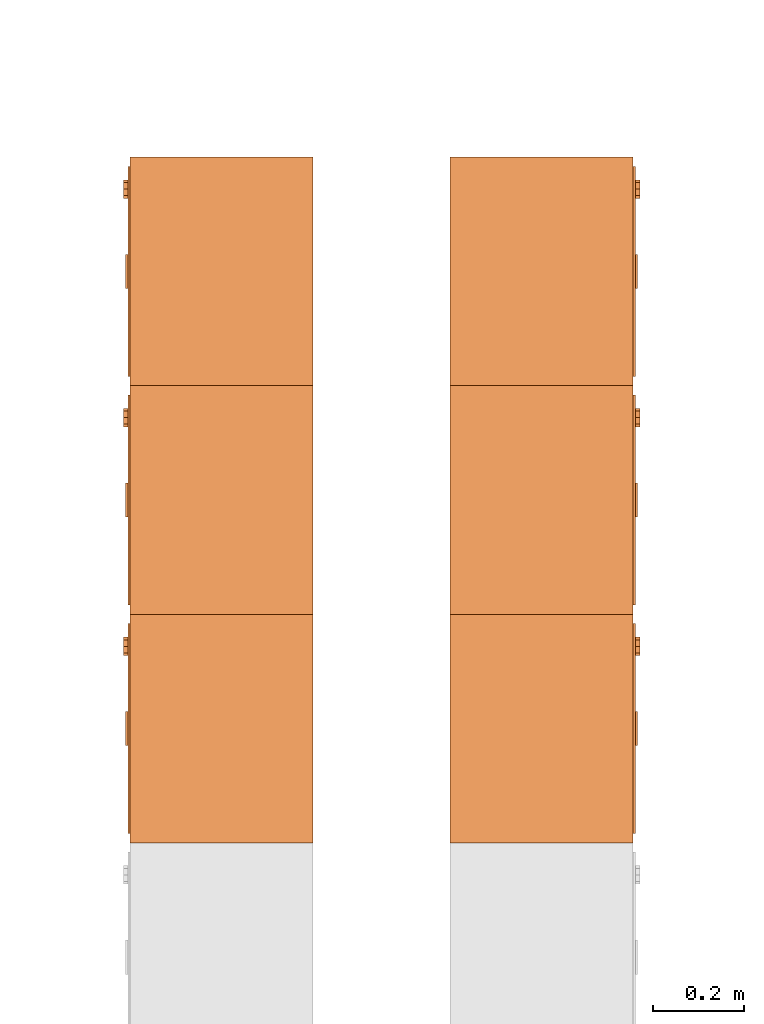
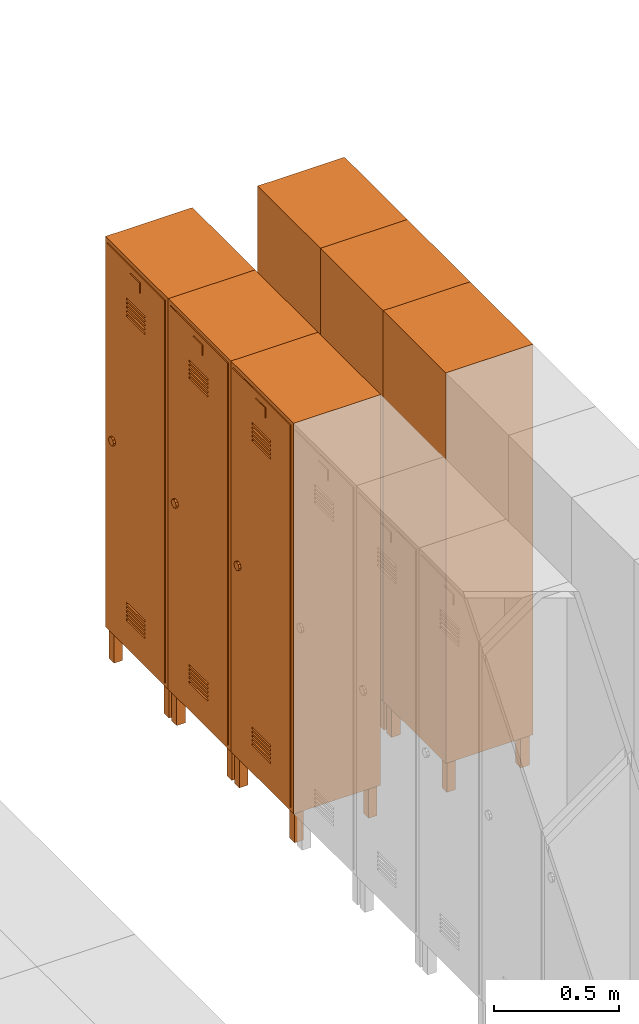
# One storey, part 7 of 7: 6 proxies.
"""IFC4 building model written with IfcOpenShell, lengths in millimetres."""

from ifc_helpers import new_model, entity, si_unit, converted_unit, derived_unit, direction, frame, origin_with_axes, place, context, subcontext, project, spatial, polygons, source, transform, mapped, type_object, element, save


model = new_model("IFC4")

# Units and contexts
model_context = context("Model", 3, precision=0.01, world=origin_with_axes(), true_north=direction((0.0, 1.0)))
body_context = subcontext(model_context, "Body", "Model", "MODEL_VIEW")
ifc_project = project(units=[si_unit("LENGTHUNIT", "METRE", prefix="MILLI"), si_unit("AREAUNIT", "SQUARE_METRE"), si_unit("VOLUMEUNIT", "CUBIC_METRE"), converted_unit("PLANEANGLEUNIT", "DEGREE", entity("IfcPlaneAngleMeasure", 0.0174532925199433), si_unit("PLANEANGLEUNIT", "RADIAN"), dimensions=[0, 0, 0, 0, 0, 0, 0]), converted_unit("TIMEUNIT", "Year", entity("IfcTimeMeasure", 31557600.0), si_unit("TIMEUNIT", "SECOND"), dimensions=[0, 0, 1, 0, 0, 0, 0]), si_unit("MASSUNIT", "GRAM", prefix="KILO"), si_unit("THERMODYNAMICTEMPERATUREUNIT", "DEGREE_CELSIUS"), si_unit("LUMINOUSINTENSITYUNIT", "LUMEN"), si_unit("ENERGYUNIT", "JOULE", prefix="MEGA"), derived_unit("THERMALCONDUCTANCEUNIT", [(si_unit("POWERUNIT", "WATT"), 1), (si_unit("LENGTHUNIT", "METRE"), -1), (si_unit("THERMODYNAMICTEMPERATUREUNIT", "KELVIN"), -1)]), derived_unit("SPECIFICHEATCAPACITYUNIT", [(si_unit("ENERGYUNIT", "JOULE"), 1), (si_unit("MASSUNIT", "GRAM", prefix="KILO"), -1), (si_unit("THERMODYNAMICTEMPERATUREUNIT", "KELVIN"), -1)]), derived_unit("MASSDENSITYUNIT", [(si_unit("MASSUNIT", "GRAM", prefix="KILO"), 1), (si_unit("VOLUMEUNIT", "CUBIC_METRE"), -1)])], contexts=[model_context])

# Site, building, storey
site_placement = place(None, origin_with_axes())
site = spatial("IfcSite", under=ifc_project, at=site_placement, Name="Exteriér", CompositionType="ELEMENT")
building_placement = place(site_placement, origin_with_axes())
building = spatial("IfcBuilding", under=site, at=building_placement, Name="Univerzitní lezecké centrum", CompositionType="ELEMENT")
storey_placement = place(building_placement, frame((0.0, 0.0, -3350.0), z_axis=(0.0, 0.0, 1.0), x_axis=(1.0, 0.0, 0.0)))
storey = spatial("IfcBuildingStorey", under=building, at=storey_placement, Name="1.PP", CompositionType="ELEMENT", Elevation=-3350.0)

# Proxies
building_element_proxy_type = type_object("IfcBuildingElementProxyType", Name="Skříňky 24", PredefinedType="NOTDEFINED")
shared_shape_1 = source(origin_with_axes(), body_context, "Body", "Tessellation", [
    polygons([(9.999999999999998, 9.999999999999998, 0.0), (50.0, 9.999999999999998, 0.0), (50.0, 9.999999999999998, 150.0), (9.999999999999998, 9.999999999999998, 150.0), (9.999999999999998, 50.0, 0.0), (50.0, 50.0, 0.0), (50.0, 50.0, 150.0), (9.999999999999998, 50.0, 150.0)], [[[1, 2, 3, 4]], [[1, 5, 6, 2]], [[2, 6, 7, 3]], [[4, 3, 7, 8]], [[5, 1, 4, 8]], [[6, 5, 8, 7]]], closed=True),
    polygons([(449.9999999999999, 9.999999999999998, 0.0), (490.0, 9.999999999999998, 0.0), (490.0, 9.999999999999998, 150.0), (449.9999999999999, 9.999999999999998, 150.0), (449.9999999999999, 50.0, 0.0), (490.0, 50.0, 0.0), (490.0, 50.0, 150.0), (449.9999999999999, 50.0, 150.0)], [[[1, 2, 3, 4]], [[1, 5, 6, 2]], [[2, 6, 7, 3]], [[4, 3, 7, 8]], [[5, 1, 4, 8]], [[6, 5, 8, 7]]], closed=True),
    polygons([(9.999999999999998, 350.0, 0.0), (50.0, 350.0, 0.0), (50.0, 350.0, 150.0), (9.999999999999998, 350.0, 150.0), (9.999999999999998, 390.0, 0.0), (50.0, 390.0, 0.0), (50.0, 390.0, 150.0), (9.999999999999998, 390.0, 150.0)], [[[1, 2, 3, 4]], [[1, 5, 6, 2]], [[2, 6, 7, 3]], [[4, 3, 7, 8]], [[5, 1, 4, 8]], [[6, 5, 8, 7]]], closed=True),
    polygons([(449.9999999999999, 350.0, 0.0), (490.0, 350.0, 0.0), (490.0, 350.0, 150.0), (449.9999999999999, 350.0, 150.0), (449.9999999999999, 390.0, 0.0), (490.0, 390.0, 0.0), (490.0, 390.0, 150.0), (449.9999999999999, 390.0, 150.0)], [[[1, 2, 3, 4]], [[1, 5, 6, 2]], [[2, 6, 7, 3]], [[4, 3, 7, 8]], [[5, 1, 4, 8]], [[6, 5, 8, 7]]], closed=True),
    polygons([(0.0, 0.0, 150.0), (0.0, 0.0, 2050.0), (0.0, 379.9999999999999, 2050.0), (0.0, 380.0, 150.0), (500.0, 0.0, 150.0), (500.0, 0.0, 2050.0), (20.0, 0.0, 170.0), (20.0, 0.0, 2030.0), (480.0, 0.0, 2030.0), (480.0, 0.0, 170.0), (500.0, 379.9999999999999, 2050.0), (500.0, 380.0, 150.0), (20.0, 380.0, 170.0), (480.0, 380.0, 170.0), (480.0, 379.9999999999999, 2030.0), (20.0, 379.9999999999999, 2030.0)], [[[1, 2, 3, 4]], [[1, 5, 6, 2], [7, 8, 9, 10]], [[2, 6, 11, 3]], [[4, 3, 11, 12], [13, 14, 15, 16]], [[5, 1, 4, 12]], [[6, 5, 12, 11]], [[8, 7, 13, 16]], [[9, 8, 16, 15]], [[10, 9, 15, 14]], [[7, 10, 14, 13]]], closed=True),
    polygons([(0.0, 379.9999999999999, 2050.0), (500.0, 379.9999999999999, 2050.0), (500.0, 399.9999999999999, 2050.0), (0.0, 399.9999999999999, 2050.0), (0.0, 380.0, 150.0), (500.0, 380.0, 150.0), (500.0, 400.0, 150.0), (0.0, 400.0, 150.0)], [[[1, 2, 3, 4]], [[1, 5, 6, 2]], [[2, 6, 7, 3]], [[4, 3, 7, 8]], [[5, 1, 4, 8]], [[6, 5, 8, 7]]], closed=True),
    polygons([(20.0, 5.0, 170.0), (480.0000000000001, 5.0, 170.0), (480.0000000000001, -5.0, 170.0), (20.0, -5.0, 170.0), (20.0, 5.000000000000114, 2030.0), (480.0000000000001, 5.000000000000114, 2030.0), (175.0, 5.000000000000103, 1850.0), (325.0000000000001, 5.000000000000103, 1850.0), (325.0000000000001, 5.000000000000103, 1860.0), (175.0, 5.000000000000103, 1860.0), (175.0, 5.000000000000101, 1830.0), (325.0000000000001, 5.000000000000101, 1830.0), (325.0000000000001, 5.000000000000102, 1840.0), (175.0, 5.000000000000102, 1840.0), (175.0, 5.0000000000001, 1810.0), (325.0000000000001, 5.0000000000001, 1810.0), (325.0000000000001, 5.0000000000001, 1820.0), (175.0, 5.0000000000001, 1820.0), (175.0, 5.000000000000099, 1790.0), (325.0000000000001, 5.000000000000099, 1790.0), (325.0000000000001, 5.000000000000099, 1800.0), (175.0, 5.000000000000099, 1800.0), (175.0, 5.000000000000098, 1770.0), (325.0000000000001, 5.000000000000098, 1770.0), (325.0000000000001, 5.000000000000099, 1780.0), (175.0, 5.000000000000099, 1780.0), (175.0, 5.000000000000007, 290.0), (325.0000000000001, 5.000000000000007, 290.0), (325.0000000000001, 5.000000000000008, 300.0), (175.0, 5.000000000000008, 300.0), (175.0, 5.000000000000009, 310.0), (325.0000000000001, 5.000000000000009, 310.0), (325.0000000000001, 5.00000000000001, 319.9999999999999), (175.0, 5.00000000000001, 319.9999999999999), (175.0, 5.00000000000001, 329.9999999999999), (325.0000000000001, 5.00000000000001, 329.9999999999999), (325.0000000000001, 5.000000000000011, 339.9999999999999), (175.0, 5.000000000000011, 339.9999999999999), (175.0, 5.000000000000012, 350.0), (325.0000000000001, 5.000000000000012, 350.0), (325.0000000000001, 5.000000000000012, 360.0), (175.0, 5.000000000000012, 360.0), (175.0, 5.000000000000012, 370.0), (325.0000000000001, 5.000000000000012, 370.0), (325.0000000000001, 5.000000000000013, 380.0), (175.0, 5.000000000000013, 380.0), (480.0000000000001, -4.999999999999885, 2030.0), (20.0, -4.999999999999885, 2030.0), (175.0, -4.999999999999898, 1850.0), (175.0, -4.999999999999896, 1860.0), (325.0000000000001, -4.999999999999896, 1860.0), (325.0000000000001, -4.999999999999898, 1850.0), (175.0, -4.999999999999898, 1830.0), (175.0, -4.999999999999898, 1840.0), (325.0000000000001, -4.999999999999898, 1840.0), (325.0000000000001, -4.999999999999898, 1830.0), (175.0, -4.9999999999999, 1810.0), (175.0, -4.9999999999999, 1820.0), (325.0000000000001, -4.9999999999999, 1820.0), (325.0000000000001, -4.9999999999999, 1810.0), (175.0, -4.999999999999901, 1790.0), (175.0, -4.9999999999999, 1800.0), (325.0000000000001, -4.9999999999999, 1800.0), (325.0000000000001, -4.999999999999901, 1790.0), (175.0, -4.999999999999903, 1770.0), (175.0, -4.999999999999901, 1780.0), (325.0000000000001, -4.999999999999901, 1780.0), (325.0000000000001, -4.999999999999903, 1770.0), (175.0, -4.999999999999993, 290.0), (175.0, -4.999999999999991, 300.0), (325.0000000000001, -4.999999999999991, 300.0), (325.0000000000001, -4.999999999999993, 290.0), (175.0, -4.999999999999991, 310.0), (175.0, -4.999999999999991, 319.9999999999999), (325.0000000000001, -4.999999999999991, 319.9999999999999), (325.0000000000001, -4.999999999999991, 310.0), (175.0, -4.999999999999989, 329.9999999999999), (175.0, -4.999999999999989, 339.9999999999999), (325.0000000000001, -4.999999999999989, 339.9999999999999), (325.0000000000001, -4.999999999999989, 329.9999999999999), (175.0, -4.999999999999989, 350.0), (175.0, -4.999999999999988, 360.0), (325.0000000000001, -4.999999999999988, 360.0), (325.0000000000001, -4.999999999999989, 350.0), (175.0, -4.999999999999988, 370.0), (175.0, -4.999999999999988, 380.0), (325.0000000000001, -4.999999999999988, 380.0), (325.0000000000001, -4.999999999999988, 370.0)], [[[1, 2, 3, 4]], [[1, 5, 6, 2], [7, 8, 9, 10], [11, 12, 13, 14], [15, 16, 17, 18], [19, 20, 21, 22], [23, 24, 25, 26], [27, 28, 29, 30], [31, 32, 33, 34], [35, 36, 37, 38], [39, 40, 41, 42], [43, 44, 45, 46]], [[2, 6, 47, 3]], [[4, 3, 47, 48], [49, 50, 51, 52], [53, 54, 55, 56], [57, 58, 59, 60], [61, 62, 63, 64], [65, 66, 67, 68], [69, 70, 71, 72], [73, 74, 75, 76], [77, 78, 79, 80], [81, 82, 83, 84], [85, 86, 87, 88]], [[5, 1, 4, 48]], [[6, 5, 48, 47]], [[8, 7, 49, 52]], [[9, 8, 52, 51]], [[10, 9, 51, 50]], [[7, 10, 50, 49]], [[12, 11, 53, 56]], [[13, 12, 56, 55]], [[14, 13, 55, 54]], [[11, 14, 54, 53]], [[16, 15, 57, 60]], [[17, 16, 60, 59]], [[18, 17, 59, 58]], [[15, 18, 58, 57]], [[20, 19, 61, 64]], [[21, 20, 64, 63]], [[22, 21, 63, 62]], [[19, 22, 62, 61]], [[24, 23, 65, 68]], [[25, 24, 68, 67]], [[26, 25, 67, 66]], [[23, 26, 66, 65]], [[28, 27, 69, 72]], [[29, 28, 72, 71]], [[30, 29, 71, 70]], [[27, 30, 70, 69]], [[32, 31, 73, 76]], [[33, 32, 76, 75]], [[34, 33, 75, 74]], [[31, 34, 74, 73]], [[36, 35, 77, 80]], [[37, 36, 80, 79]], [[38, 37, 79, 78]], [[35, 38, 78, 77]], [[40, 39, 81, 84]], [[41, 40, 84, 83]], [[42, 41, 83, 82]], [[39, 42, 82, 81]], [[44, 43, 85, 88]], [[45, 44, 88, 87]], [[46, 45, 87, 86]], [[43, 46, 86, 85]]], closed=True),
    polygons([(287.5, -10.0, 1950.0), (212.5, -10.0, 1950.0), (212.5, -5.0, 1950.0), (287.5, -5.0, 1950.0), (287.5, -10.0, 2000.0), (212.5, -10.0, 2000.0), (212.5, -5.0, 2000.0), (287.5, -5.0, 2000.0)], [[[1, 2, 3, 4]], [[2, 1, 5, 6]], [[3, 2, 6, 7]], [[4, 3, 7, 8]], [[1, 4, 8, 5]], [[6, 5, 8, 7]]], closed=True),
    polygons([(84.14213562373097, -5.000000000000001, 1085.857864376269), (70.0, -5.000000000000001, 1080.0), (55.85786437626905, -5.000000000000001, 1085.857864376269), (50.0, -5.0, 1100.0), (55.85786437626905, -4.999999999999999, 1114.142135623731), (70.0, -4.999999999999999, 1120.0), (84.14213562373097, -4.999999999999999, 1114.142135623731), (90.00000000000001, -5.0, 1100.0), (84.14213562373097, -15.0, 1085.857864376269), (70.0, -15.0, 1080.0), (55.85786437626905, -15.0, 1085.857864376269), (50.0, -15.0, 1100.0), (55.85786437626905, -15.0, 1114.142135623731), (70.0, -15.0, 1120.0), (84.14213562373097, -15.0, 1114.142135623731), (90.00000000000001, -15.0, 1100.0)], [[[1, 2, 3, 4, 5, 6, 7, 8]], [[2, 1, 9, 10]], [[3, 2, 10, 11]], [[4, 3, 11, 12]], [[5, 4, 12, 13]], [[6, 5, 13, 14]], [[7, 6, 14, 15]], [[8, 7, 15, 16]], [[1, 8, 16, 9]], [[9, 16, 15, 14, 13, 12, 11, 10]]], closed=True),
])
for number, where, z_axis, x_axis, name in (
    (1, (1899.85164885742, -2949.739482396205, 0.0), (0.0, 0.0, 1.0), (0.0, -1.0, 0.0), "OV02"),
    (2, (1899.851648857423, -2449.739482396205, 0.0), (0.0, 0.0, 1.0), (0.0, -1.0, 0.0), "OV02"),
    (3, (1899.851648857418, -3449.739482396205, 0.0), (0.0, 0.0, 1.0), (0.0, -1.0, 0.0), "OV02"),
):
    element("IfcBuildingElementProxy", number, at=place(storey_placement, frame(where, z_axis=z_axis, x_axis=x_axis)), inside=storey, type_object=building_element_proxy_type, Name=name, PredefinedType="NOTDEFINED", context=body_context, shape_type="MappedRepresentation", body=[
        mapped(shared_shape_1, transform((0.0, 0.0, 0.0))),
    ])
shared_shape_2 = source(origin_with_axes(), body_context, "Body", "Tessellation", [
    polygons([(-9.999999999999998, 9.999999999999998, 0.0), (-9.999999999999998, 9.999999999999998, 150.0), (-50.0, 9.999999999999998, 150.0), (-50.0, 9.999999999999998, 0.0), (-9.999999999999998, 50.0, 0.0), (-9.999999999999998, 50.0, 150.0), (-50.0, 50.0, 150.0), (-50.0, 50.0, 0.0)], [[[1, 2, 3, 4]], [[5, 6, 2, 1]], [[2, 6, 7, 3]], [[4, 3, 7, 8]], [[1, 4, 8, 5]], [[8, 7, 6, 5]]], closed=True),
    polygons([(-449.9999999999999, 9.999999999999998, 0.0), (-449.9999999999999, 9.999999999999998, 150.0), (-490.0, 9.999999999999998, 150.0), (-490.0, 9.999999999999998, 0.0), (-449.9999999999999, 50.0, 0.0), (-449.9999999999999, 50.0, 150.0), (-490.0, 50.0, 150.0), (-490.0, 50.0, 0.0)], [[[1, 2, 3, 4]], [[5, 6, 2, 1]], [[2, 6, 7, 3]], [[4, 3, 7, 8]], [[1, 4, 8, 5]], [[8, 7, 6, 5]]], closed=True),
    polygons([(-9.999999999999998, 350.0, 0.0), (-9.999999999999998, 350.0, 150.0), (-50.0, 350.0, 150.0), (-50.0, 350.0, 0.0), (-9.999999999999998, 390.0, 0.0), (-9.999999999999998, 390.0, 150.0), (-50.0, 390.0, 150.0), (-50.0, 390.0, 0.0)], [[[1, 2, 3, 4]], [[5, 6, 2, 1]], [[2, 6, 7, 3]], [[4, 3, 7, 8]], [[1, 4, 8, 5]], [[8, 7, 6, 5]]], closed=True),
    polygons([(-449.9999999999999, 350.0, 0.0), (-449.9999999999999, 350.0, 150.0), (-490.0, 350.0, 150.0), (-490.0, 350.0, 0.0), (-449.9999999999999, 390.0, 0.0), (-449.9999999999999, 390.0, 150.0), (-490.0, 390.0, 150.0), (-490.0, 390.0, 0.0)], [[[1, 2, 3, 4]], [[5, 6, 2, 1]], [[2, 6, 7, 3]], [[4, 3, 7, 8]], [[1, 4, 8, 5]], [[8, 7, 6, 5]]], closed=True),
    polygons([(0.0, 0.0, 150.0), (0.0, 380.0, 150.0), (0.0, 379.9999999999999, 2050.0), (0.0, 0.0, 2050.0), (-500.0, 0.0, 150.0), (-500.0, 380.0, 150.0), (-500.0, 379.9999999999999, 2050.0), (-20.0, 380.0, 170.0), (-20.0, 379.9999999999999, 2030.0), (-480.0, 379.9999999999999, 2030.0), (-480.0, 380.0, 170.0), (-500.0, 0.0, 2050.0), (-20.0, 0.0, 170.0), (-480.0, 0.0, 170.0), (-480.0, 0.0, 2030.0), (-20.0, 0.0, 2030.0)], [[[1, 2, 3, 4]], [[5, 6, 2, 1]], [[2, 6, 7, 3], [8, 9, 10, 11]], [[4, 3, 7, 12]], [[1, 4, 12, 5], [13, 14, 15, 16]], [[12, 7, 6, 5]], [[16, 9, 8, 13]], [[15, 10, 9, 16]], [[14, 11, 10, 15]], [[13, 8, 11, 14]]], closed=True),
    polygons([(0.0, 379.9999999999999, 2050.0), (0.0, 399.9999999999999, 2050.0), (-500.0, 399.9999999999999, 2050.0), (-500.0, 379.9999999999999, 2050.0), (0.0, 380.0, 150.0), (0.0, 400.0, 150.0), (-500.0, 400.0, 150.0), (-500.0, 380.0, 150.0)], [[[1, 2, 3, 4]], [[5, 6, 2, 1]], [[2, 6, 7, 3]], [[4, 3, 7, 8]], [[1, 4, 8, 5]], [[8, 7, 6, 5]]], closed=True),
    polygons([(-20.0, 5.0, 170.0), (-20.0, -5.0, 170.0), (-480.0000000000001, -5.0, 170.0), (-480.0000000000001, 5.0, 170.0), (-20.0, 5.000000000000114, 2030.0), (-20.0, -4.999999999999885, 2030.0), (-480.0000000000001, -4.999999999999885, 2030.0), (-175.0, -4.999999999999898, 1850.0), (-325.0000000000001, -4.999999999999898, 1850.0), (-325.0000000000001, -4.999999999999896, 1860.0), (-175.0, -4.999999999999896, 1860.0), (-175.0, -4.999999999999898, 1830.0), (-325.0000000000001, -4.999999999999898, 1830.0), (-325.0000000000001, -4.999999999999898, 1840.0), (-175.0, -4.999999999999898, 1840.0), (-175.0, -4.9999999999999, 1810.0), (-325.0000000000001, -4.9999999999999, 1810.0), (-325.0000000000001, -4.9999999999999, 1820.0), (-175.0, -4.9999999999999, 1820.0), (-175.0, -4.999999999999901, 1790.0), (-325.0000000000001, -4.999999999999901, 1790.0), (-325.0000000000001, -4.9999999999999, 1800.0), (-175.0, -4.9999999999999, 1800.0), (-175.0, -4.999999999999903, 1770.0), (-325.0000000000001, -4.999999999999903, 1770.0), (-325.0000000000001, -4.999999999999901, 1780.0), (-175.0, -4.999999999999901, 1780.0), (-175.0, -4.999999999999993, 290.0), (-325.0000000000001, -4.999999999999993, 290.0), (-325.0000000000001, -4.999999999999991, 300.0), (-175.0, -4.999999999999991, 300.0), (-175.0, -4.999999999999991, 310.0), (-325.0000000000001, -4.999999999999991, 310.0), (-325.0000000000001, -4.999999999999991, 319.9999999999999), (-175.0, -4.999999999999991, 319.9999999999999), (-175.0, -4.999999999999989, 329.9999999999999), (-325.0000000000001, -4.999999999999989, 329.9999999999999), (-325.0000000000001, -4.999999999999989, 339.9999999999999), (-175.0, -4.999999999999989, 339.9999999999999), (-175.0, -4.999999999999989, 350.0), (-325.0000000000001, -4.999999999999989, 350.0), (-325.0000000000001, -4.999999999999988, 360.0), (-175.0, -4.999999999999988, 360.0), (-175.0, -4.999999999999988, 370.0), (-325.0000000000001, -4.999999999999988, 370.0), (-325.0000000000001, -4.999999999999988, 380.0), (-175.0, -4.999999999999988, 380.0), (-480.0000000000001, 5.000000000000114, 2030.0), (-175.0, 5.000000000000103, 1850.0), (-175.0, 5.000000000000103, 1860.0), (-325.0000000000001, 5.000000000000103, 1860.0), (-325.0000000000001, 5.000000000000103, 1850.0), (-175.0, 5.000000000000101, 1830.0), (-175.0, 5.000000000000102, 1840.0), (-325.0000000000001, 5.000000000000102, 1840.0), (-325.0000000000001, 5.000000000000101, 1830.0), (-175.0, 5.0000000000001, 1810.0), (-175.0, 5.0000000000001, 1820.0), (-325.0000000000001, 5.0000000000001, 1820.0), (-325.0000000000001, 5.0000000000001, 1810.0), (-175.0, 5.000000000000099, 1790.0), (-175.0, 5.000000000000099, 1800.0), (-325.0000000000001, 5.000000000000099, 1800.0), (-325.0000000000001, 5.000000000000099, 1790.0), (-175.0, 5.000000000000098, 1770.0), (-175.0, 5.000000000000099, 1780.0), (-325.0000000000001, 5.000000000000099, 1780.0), (-325.0000000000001, 5.000000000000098, 1770.0), (-175.0, 5.000000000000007, 290.0), (-175.0, 5.000000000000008, 300.0), (-325.0000000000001, 5.000000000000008, 300.0), (-325.0000000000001, 5.000000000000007, 290.0), (-175.0, 5.000000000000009, 310.0), (-175.0, 5.00000000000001, 319.9999999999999), (-325.0000000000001, 5.00000000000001, 319.9999999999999), (-325.0000000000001, 5.000000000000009, 310.0), (-175.0, 5.00000000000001, 329.9999999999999), (-175.0, 5.000000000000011, 339.9999999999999), (-325.0000000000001, 5.000000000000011, 339.9999999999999), (-325.0000000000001, 5.00000000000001, 329.9999999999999), (-175.0, 5.000000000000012, 350.0), (-175.0, 5.000000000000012, 360.0), (-325.0000000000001, 5.000000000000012, 360.0), (-325.0000000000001, 5.000000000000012, 350.0), (-175.0, 5.000000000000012, 370.0), (-175.0, 5.000000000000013, 380.0), (-325.0000000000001, 5.000000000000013, 380.0), (-325.0000000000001, 5.000000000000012, 370.0)], [[[1, 2, 3, 4]], [[5, 6, 2, 1]], [[2, 6, 7, 3], [8, 9, 10, 11], [12, 13, 14, 15], [16, 17, 18, 19], [20, 21, 22, 23], [24, 25, 26, 27], [28, 29, 30, 31], [32, 33, 34, 35], [36, 37, 38, 39], [40, 41, 42, 43], [44, 45, 46, 47]], [[4, 3, 7, 48]], [[1, 4, 48, 5], [49, 50, 51, 52], [53, 54, 55, 56], [57, 58, 59, 60], [61, 62, 63, 64], [65, 66, 67, 68], [69, 70, 71, 72], [73, 74, 75, 76], [77, 78, 79, 80], [81, 82, 83, 84], [85, 86, 87, 88]], [[48, 7, 6, 5]], [[52, 9, 8, 49]], [[51, 10, 9, 52]], [[50, 11, 10, 51]], [[49, 8, 11, 50]], [[56, 13, 12, 53]], [[55, 14, 13, 56]], [[54, 15, 14, 55]], [[53, 12, 15, 54]], [[60, 17, 16, 57]], [[59, 18, 17, 60]], [[58, 19, 18, 59]], [[57, 16, 19, 58]], [[64, 21, 20, 61]], [[63, 22, 21, 64]], [[62, 23, 22, 63]], [[61, 20, 23, 62]], [[68, 25, 24, 65]], [[67, 26, 25, 68]], [[66, 27, 26, 67]], [[65, 24, 27, 66]], [[72, 29, 28, 69]], [[71, 30, 29, 72]], [[70, 31, 30, 71]], [[69, 28, 31, 70]], [[76, 33, 32, 73]], [[75, 34, 33, 76]], [[74, 35, 34, 75]], [[73, 32, 35, 74]], [[80, 37, 36, 77]], [[79, 38, 37, 80]], [[78, 39, 38, 79]], [[77, 36, 39, 78]], [[84, 41, 40, 81]], [[83, 42, 41, 84]], [[82, 43, 42, 83]], [[81, 40, 43, 82]], [[88, 45, 44, 85]], [[87, 46, 45, 88]], [[86, 47, 46, 87]], [[85, 44, 47, 86]]], closed=True),
    polygons([(-287.5, -10.0, 1950.0), (-287.5, -5.0, 1950.0), (-212.5, -5.0, 1950.0), (-212.5, -10.0, 1950.0), (-287.5, -10.0, 2000.0), (-287.5, -5.0, 2000.0), (-212.5, -5.0, 2000.0), (-212.5, -10.0, 2000.0)], [[[1, 2, 3, 4]], [[1, 5, 6, 2]], [[2, 6, 7, 3]], [[3, 7, 8, 4]], [[4, 8, 5, 1]], [[8, 7, 6, 5]]], closed=True),
    polygons([(-84.14213562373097, -5.000000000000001, 1085.857864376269), (-90.00000000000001, -5.0, 1100.0), (-84.14213562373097, -4.999999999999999, 1114.142135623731), (-70.0, -4.999999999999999, 1120.0), (-55.85786437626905, -4.999999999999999, 1114.142135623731), (-50.0, -5.0, 1100.0), (-55.85786437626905, -5.000000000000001, 1085.857864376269), (-70.0, -5.000000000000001, 1080.0), (-84.14213562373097, -15.0, 1085.857864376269), (-90.00000000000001, -15.0, 1100.0), (-84.14213562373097, -15.0, 1114.142135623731), (-70.0, -15.0, 1120.0), (-55.85786437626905, -15.0, 1114.142135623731), (-50.0, -15.0, 1100.0), (-55.85786437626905, -15.0, 1085.857864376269), (-70.0, -15.0, 1080.0)], [[[1, 2, 3, 4, 5, 6, 7, 8]], [[1, 9, 10, 2]], [[2, 10, 11, 3]], [[3, 11, 12, 4]], [[4, 12, 13, 5]], [[5, 13, 14, 6]], [[6, 14, 15, 7]], [[7, 15, 16, 8]], [[8, 16, 9, 1]], [[9, 16, 15, 14, 13, 12, 11, 10]]], closed=True),
])
for number, where, z_axis, x_axis, name in (
    (4, (2999.851648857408, -2449.739482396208, 0.0), (0.0, 0.0, 1.0), (0.0, 1.0, 0.0), "OV03"),
    (5, (2999.85164885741, -3449.739482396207, 0.0), (0.0, 0.0, 1.0), (0.0, 1.0, 0.0), "OV03"),
    (6, (2999.85164885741, -2949.739482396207, 0.0), (0.0, 0.0, 1.0), (0.0, 1.0, 0.0), "OV03"),
):
    element("IfcBuildingElementProxy", number, at=place(storey_placement, frame(where, z_axis=z_axis, x_axis=x_axis)), inside=storey, type_object=building_element_proxy_type, Name=name, PredefinedType="NOTDEFINED", context=body_context, shape_type="MappedRepresentation", body=[
        mapped(shared_shape_2, transform((0.0, 0.0, 0.0))),
    ])

save(model, "model.ifc")
